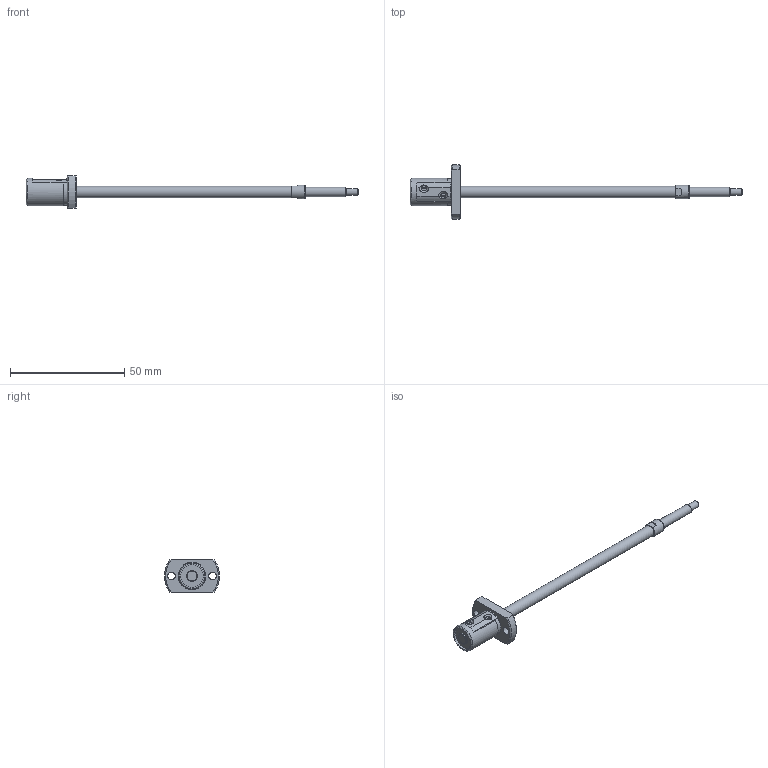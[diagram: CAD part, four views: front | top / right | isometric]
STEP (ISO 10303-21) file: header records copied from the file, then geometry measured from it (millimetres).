
FILE_DESCRIPTION( ( 'STEP AP203' ), '1' );
FILE_NAME( 'e:/temp/worker_83/temp/exporttempdir_4668_287_nG8tG/format_0/SG0504-112R145C3A1X(0).stp', '2021-10-19T00:28:14', ( 'License CC BY-ND 4.0' ), ( 'CADENAS' ), ' ', 'PARTsolutions', ' ' );
FILE_SCHEMA( ( 'CONFIG_CONTROL_DESIGN' ) );
Length unit declared in the file: millimetre
Products named in the file (3): SG0504-112R145C3A1X(0); _SG0504-112R145C3A_shaft; _SG0504_nut
Assembly tree (2 placements, depth 2):
  SG0504-112R145C3A1X(0)
    _SG0504-112R145C3A_shaft
    _SG0504_nut
Bounding box: 145 x 24 x 14 mm (x, y, z)
Volume: 5295.7 mm3; surface area: 4233.1 mm2
Topology: 2 solids, 2 shells, 72 faces, 177 edges, 116 vertices
Faces by surface type: plane 35, cylinder 23, cone 13, torus 1
Full cylindrical faces by diameter (mm): 3 x1, 3.4 x2, 4 x1, 5 x2, 6 x1, 10 x2, 11.6 x1, 12 x1
Entity records: 2112 total; most frequent: CARTESIAN_POINT 409, DIRECTION 346, ORIENTED_EDGE 292, EDGE_CURVE 146, AXIS2_PLACEMENT_3D 143, EDGE_LOOP 106, VERTEX_POINT 106, FACE_OUTER_BOUND 84
